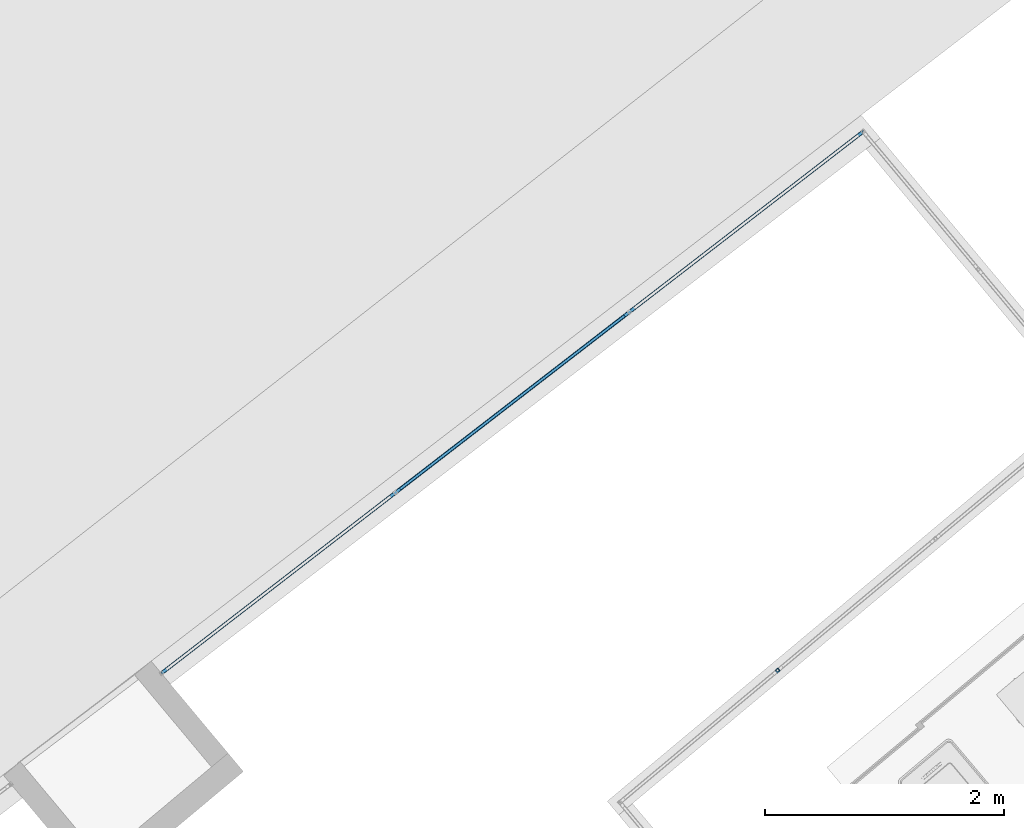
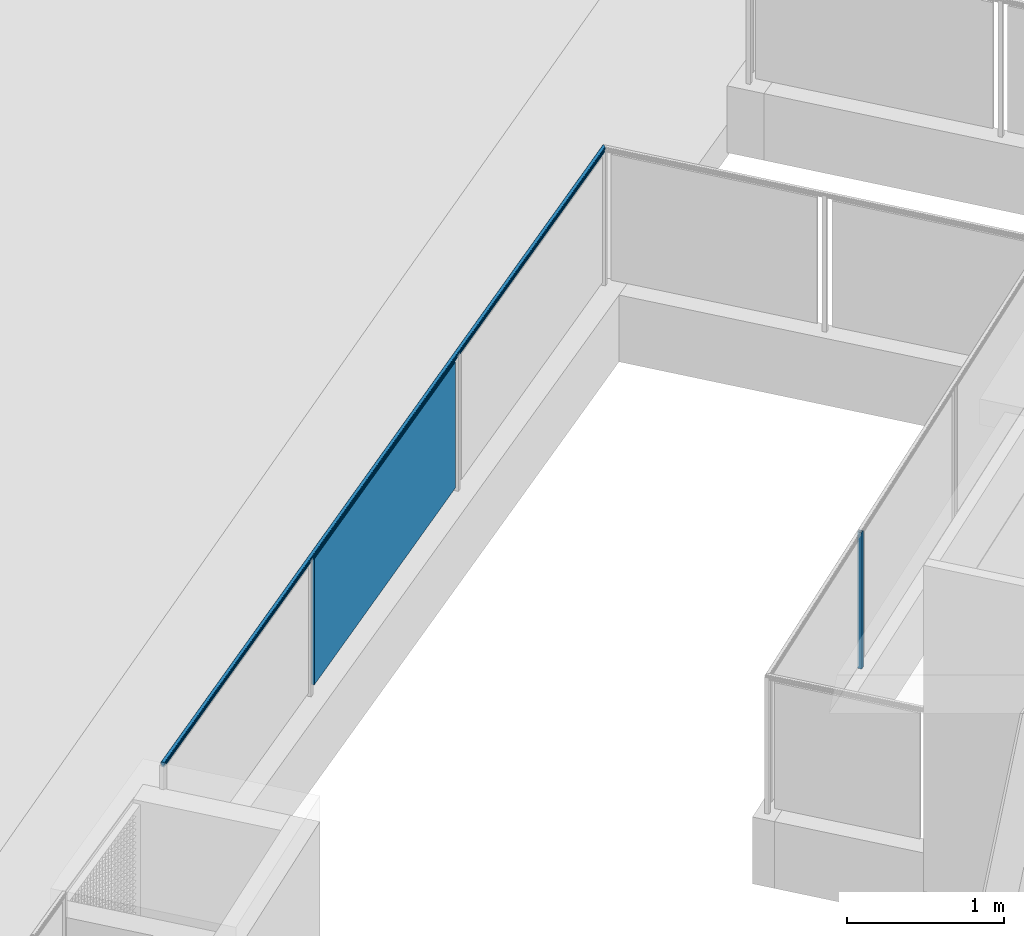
# One storey, part 30 of 75: 3 building element parts, 1 element without a shape of its own.
"""IFC4 building model written with IfcOpenShell, lengths in metres."""

from ifc_helpers import new_model, entity, si_unit, converted_unit, derived_unit, direction, frame, origin_with_axes, place, context, subcontext, project, spatial, polygons, material, type_object, element, aggregate, save


model = new_model("IFC4")

# Units and contexts
model_context = context("Model", 3, precision=1e-05, world=origin_with_axes(), true_north=direction((0.0, 1.0)))
body_context = subcontext(model_context, "Body", "Model", "MODEL_VIEW")
ifc_project = project(units=[si_unit("LENGTHUNIT", "METRE"), si_unit("AREAUNIT", "SQUARE_METRE"), si_unit("VOLUMEUNIT", "CUBIC_METRE"), converted_unit("PLANEANGLEUNIT", "DEGREE", entity("IfcPlaneAngleMeasure", 0.0174532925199), si_unit("PLANEANGLEUNIT", "RADIAN"), dimensions=[0, 0, 0, 0, 0, 0, 0]), converted_unit("TIMEUNIT", "Year", entity("IfcTimeMeasure", 31556926.0), si_unit("TIMEUNIT", "SECOND"), dimensions=[0, 0, 1, 0, 0, 0, 0]), si_unit("MASSUNIT", "GRAM", prefix="KILO"), si_unit("THERMODYNAMICTEMPERATUREUNIT", "DEGREE_CELSIUS"), si_unit("LUMINOUSINTENSITYUNIT", "LUMEN"), si_unit("ENERGYUNIT", "JOULE", prefix="MEGA"), derived_unit("THERMALCONDUCTANCEUNIT", [(si_unit("POWERUNIT", "WATT"), 1), (si_unit("LENGTHUNIT", "METRE"), -1), (si_unit("THERMODYNAMICTEMPERATUREUNIT", "KELVIN"), -1)]), derived_unit("SPECIFICHEATCAPACITYUNIT", [(si_unit("ENERGYUNIT", "JOULE"), 1), (si_unit("MASSUNIT", "GRAM", prefix="KILO"), -1), (si_unit("THERMODYNAMICTEMPERATUREUNIT", "KELVIN"), -1)]), derived_unit("MASSDENSITYUNIT", [(si_unit("MASSUNIT", "GRAM", prefix="KILO"), 1), (si_unit("VOLUMEUNIT", "CUBIC_METRE"), -1)])], contexts=[model_context])

# Site, building, storey
site_placement = place(None, frame((-0.00153261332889, -0.00661245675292, 0.0), z_axis=(0.0, 0.0, 1.0), x_axis=(1.0, 0.0, 0.0)))
site = spatial("IfcSite", under=ifc_project, at=site_placement, Name="Gelände", CompositionType="ELEMENT")
building_placement = place(site_placement, origin_with_axes())
building = spatial("IfcBuilding", under=site, at=building_placement, Name="Gebäude", CompositionType="ELEMENT")
storey_placement = place(building_placement, frame((0.0, 0.0, -0.22), z_axis=(0.0, 0.0, 1.0), x_axis=(1.0, 0.0, 0.0)))
storey = spatial("IfcBuildingStorey", under=building, at=storey_placement, Name="EG", CompositionType="ELEMENT", Elevation=-0.22)

# Railing, building element parts
railing_type = type_object("IfcRailingType", Name="Geländerart", PredefinedType="NOTDEFINED")
railing_placement = place(storey_placement, frame((-6.36726458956, 22.4448248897, 0.523948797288), z_axis=(0.0, 0.0, 1.0), x_axis=(1.0, 0.0, 0.0)))
railing = element("IfcRailing", 1, at=railing_placement, inside=storey, type_object=railing_type, Name="Geländer - 001", PredefinedType="NOTDEFINED")
ifc_material_1 = material(Name="Aluminium")
building_element_part_1_placement = place(railing_placement, origin_with_axes())
building_element_part_1 = element("IfcBuildingElementPart", 2, at=building_element_part_1_placement, material=ifc_material_1, Name="Aluminium", PredefinedType="NOTDEFINED", context=body_context, shape_type="Tessellation", body=[
    polygons([(0.700872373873, 1.98228677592, 0.0), (0.68164116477, 2.00531199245, 0.0), (0.68164116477, 2.00531199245, 1.06), (0.700872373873, 1.98228677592, 1.06), (0.677847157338, 1.96305556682, 0.0), (0.658615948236, 1.98608078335, 0.0), (0.693829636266, 1.98291911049, 0.0), (0.681008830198, 1.99826925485, 0.0), (0.665658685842, 1.98544844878, 0.0), (0.67847949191, 1.97009830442, 0.0), (0.658615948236, 1.98608078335, 1.06), (0.677847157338, 1.96305556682, 1.06), (0.693829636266, 1.98291911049, 1.06), (0.67847949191, 1.97009830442, 1.06), (0.665658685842, 1.98544844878, 1.06), (0.681008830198, 1.99826925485, 1.06)], [[[1, 2, 3, 4]], [[1, 5, 6, 2], [7, 8, 9, 10]], [[2, 6, 11, 3]], [[4, 3, 11, 12], [13, 14, 15, 16]], [[5, 1, 4, 12]], [[6, 5, 12, 11]], [[8, 7, 13, 16]], [[9, 8, 16, 15]], [[10, 9, 15, 14]], [[7, 10, 14, 13]]], closed=True),
])
building_element_part_2_placement = place(railing_placement, origin_with_axes())
building_element_part_2 = element("IfcBuildingElementPart", 3, at=building_element_part_2_placement, material=ifc_material_1, Name="Aluminium", PredefinedType="NOTDEFINED", context=body_context, shape_type="Tessellation", body=[
    polygons([(1.39602010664, 6.50418748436, 1.07636363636), (1.39605547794, 6.50451182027, 1.07634109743), (-4.47650433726, 1.97058422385, 1.07634109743), (-4.47636065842, 1.97039812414, 1.07636363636), (1.39602010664, 6.50418748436, 1.07818181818), (1.39601081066, 6.50410224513, 1.07820551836), (1.39551474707, 6.49955360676, 1.0792391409), (1.39501150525, 6.49493914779, 1.07983921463), (1.39450491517, 6.49029398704, 1.08000117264), (1.39449531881, 6.49020599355, 1.08), (1.39448572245, 6.49011800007, 1.08000117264), (1.39397913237, 6.48547283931, 1.07983921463), (1.39347589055, 6.48085838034, 1.0792391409), (1.39297982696, 6.47630974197, 1.07820551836), (1.39297053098, 6.47622450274, 1.07818181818), (1.39297053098, 6.47622450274, 1.07636363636), (1.39293515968, 6.47590016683, 1.07634109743), (1.39280417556, 6.47469911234, 1.0761115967), (1.39267919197, 6.47355307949, 1.07565956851), (1.39256400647, 6.4724968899, 1.07499874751), (1.39246211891, 6.47156263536, 1.0741492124), (1.3923766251, 6.47077870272, 1.07313677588), (1.39231012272, 6.47016891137, 1.07199220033), (1.39226463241, 6.46975178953, 1.07075026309), (1.39224153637, 6.46954001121, 1.06944869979), (1.39224153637, 6.46954001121, 1.06812705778), (1.39226463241, 6.46975178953, 1.06682549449), (1.39231012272, 6.47016891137, 1.06558355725), (1.3923766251, 6.47077870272, 1.06443898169), (1.39246211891, 6.47156263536, 1.06342654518), (1.39256400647, 6.4724968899, 1.06257701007), (1.39267919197, 6.47355307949, 1.06191618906), (1.39280417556, 6.47469911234, 1.06146416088), (1.39293515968, 6.47590016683, 1.06123466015), (1.39297053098, 6.47622450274, 1.06121212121), (1.39297053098, 6.47622450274, 1.05818181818), (1.39299444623, 6.47644379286, 1.05810011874), (1.3931058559, 6.47746536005, 1.05758389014), (1.39320655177, 6.47838868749, 1.05688326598), (1.39329347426, 6.47918572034, 1.05601953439), (1.39336398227, 6.47983224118, 1.05501893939), (1.39341593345, 6.48030860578, 1.05391188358), (1.39344774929, 6.48060034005, 1.05273200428), (1.39345846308, 6.4806985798, 1.05151515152), (1.39344774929, 6.48060034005, 1.05029829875), (1.39341593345, 6.48030860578, 1.04911841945), (1.39336398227, 6.47983224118, 1.04801136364), (1.39329347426, 6.47918572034, 1.04701076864), (1.39320655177, 6.47838868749, 1.04614703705), (1.3931058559, 6.47746536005, 1.04544641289), (1.39299444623, 6.47644379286, 1.04493018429), (1.39297053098, 6.47622450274, 1.04484848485), (1.39297053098, 6.47622450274, 1.04), (1.39602010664, 6.50418748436, 1.04), (1.39602010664, 6.50418748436, 1.04484848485), (1.39599619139, 6.50396819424, 1.04493018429), (1.39588478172, 6.50294662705, 1.04544641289), (1.39578408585, 6.50202329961, 1.04614703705), (1.39569716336, 6.50122626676, 1.04701076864), (1.39562665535, 6.50057974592, 1.04801136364), (1.39557470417, 6.50010338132, 1.04911841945), (1.39554288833, 6.49981164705, 1.05029829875), (1.39553217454, 6.4997134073, 1.05151515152), (1.39554288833, 6.49981164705, 1.05273200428), (1.39557470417, 6.50010338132, 1.05391188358), (1.39562665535, 6.50057974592, 1.05501893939), (1.39569716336, 6.50122626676, 1.05601953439), (1.39578408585, 6.50202329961, 1.05688326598), (1.39588478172, 6.50294662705, 1.05758389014), (1.39599619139, 6.50396819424, 1.05810011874), (1.39602010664, 6.50418748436, 1.05818181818), (1.39602010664, 6.50418748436, 1.06121212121), (1.39605547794, 6.50451182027, 1.06123466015), (1.39618646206, 6.50571287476, 1.06146416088), (1.39631144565, 6.50685890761, 1.06191618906), (1.39642663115, 6.5079150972, 1.06257701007), (1.39652851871, 6.50884935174, 1.06342654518), (1.39661401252, 6.50963328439, 1.06443898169), (1.3966805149, 6.51024307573, 1.06558355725), (1.39672600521, 6.51066019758, 1.06682549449), (1.39674910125, 6.51087197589, 1.06812705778), (1.39674910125, 6.51087197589, 1.06944869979), (1.39672600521, 6.51066019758, 1.07075026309), (1.3966805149, 6.51024307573, 1.07199220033), (1.39661401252, 6.50963328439, 1.07313677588), (1.39652851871, 6.50884935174, 1.0741492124), (1.39642663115, 6.5079150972, 1.07499874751), (1.39631144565, 6.50685890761, 1.07565956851), (1.39618646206, 6.50571287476, 1.0761115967), (-4.47703639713, 1.97127337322, 1.0761115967), (-4.47754408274, 1.9719309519, 1.07565956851), (-4.47801196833, 1.97253697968, 1.07499874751), (-4.47842583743, 1.97307304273, 1.0741492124), (-4.47877311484, 1.97352285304, 1.07313677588), (-4.47904324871, 1.97387274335, 1.07199220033), (-4.47922803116, 1.97411208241, 1.07075026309), (-4.47932184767, 1.97423359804, 1.06944869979), (-4.47932184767, 1.97423359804, 1.06812705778), (-4.47922803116, 1.97411208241, 1.06682549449), (-4.47904324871, 1.97387274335, 1.06558355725), (-4.47877311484, 1.97352285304, 1.06443898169), (-4.47842583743, 1.97307304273, 1.06342654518), (-4.47801196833, 1.97253697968, 1.06257701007), (-4.47754408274, 1.9719309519, 1.06191618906), (-4.47703639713, 1.97127337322, 1.06146416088), (-4.47650433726, 1.97058422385, 1.06123466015), (-4.47636065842, 1.97039812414, 1.06121212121), (-4.47636065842, 1.97039812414, 1.05818181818), (-4.47626351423, 1.97027229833, 1.05810011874), (-4.47581096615, 1.96968613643, 1.05758389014), (-4.47540193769, 1.96915634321, 1.05688326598), (-4.47504885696, 1.96869901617, 1.05601953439), (-4.47476245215, 1.96832805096, 1.05501893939), (-4.47455142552, 1.96805471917, 1.05391188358), (-4.474422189, 1.96788732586, 1.05273200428), (-4.47437866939, 1.96783095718, 1.05151515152), (-4.474422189, 1.96788732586, 1.05029829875), (-4.47455142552, 1.96805471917, 1.04911841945), (-4.47476245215, 1.96832805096, 1.04801136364), (-4.47504885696, 1.96869901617, 1.04701076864), (-4.47540193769, 1.96915634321, 1.04614703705), (-4.47581096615, 1.96968613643, 1.04544641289), (-4.47626351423, 1.97027229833, 1.04493018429), (-4.47636065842, 1.97039812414, 1.04484848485), (-4.47636065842, 1.97039812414, 1.04), (-4.46397322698, 1.95435333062, 1.04), (-4.46397322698, 1.95435333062, 1.04484848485), (-4.46407037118, 1.95447915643, 1.04493018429), (-4.46452291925, 1.95506531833, 1.04544641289), (-4.46493194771, 1.95559511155, 1.04614703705), (-4.46528502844, 1.95605243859, 1.04701076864), (-4.46557143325, 1.9564234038, 1.04801136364), (-4.46578245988, 1.95669673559, 1.04911841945), (-4.4659116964, 1.9568641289, 1.05029829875), (-4.46595521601, 1.95692049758, 1.05151515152), (-4.4659116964, 1.9568641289, 1.05273200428), (-4.46578245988, 1.95669673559, 1.05391188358), (-4.46557143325, 1.9564234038, 1.05501893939), (-4.46528502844, 1.95605243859, 1.05601953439), (-4.46493194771, 1.95559511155, 1.05688326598), (-4.46452291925, 1.95506531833, 1.05758389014), (-4.46407037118, 1.95447915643, 1.05810011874), (-4.46397322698, 1.95435333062, 1.05818181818), (-4.46397322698, 1.95435333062, 1.06121212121), (-4.46382954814, 1.95416723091, 1.06123466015), (-4.46329748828, 1.95347808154, 1.06146416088), (-4.46278980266, 1.95282050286, 1.06191618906), (-4.46232191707, 1.95221447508, 1.06257701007), (-4.46190804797, 1.95167841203, 1.06342654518), (-4.46156077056, 1.95122860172, 1.06443898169), (-4.46129063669, 1.95087871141, 1.06558355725), (-4.46110585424, 1.95063937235, 1.06682549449), (-4.46101203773, 1.95051785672, 1.06812705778), (-4.46101203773, 1.95051785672, 1.06944869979), (-4.46110585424, 1.95063937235, 1.07075026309), (-4.46129063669, 1.95087871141, 1.07199220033), (-4.46156077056, 1.95122860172, 1.07313677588), (-4.46190804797, 1.95167841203, 1.0741492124), (-4.46232191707, 1.95221447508, 1.07499874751), (-4.46278980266, 1.95282050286, 1.07565956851), (-4.46329748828, 1.95347808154, 1.0761115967), (-4.46382954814, 1.95416723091, 1.07634109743), (-4.46397322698, 1.95435333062, 1.07636363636), (-4.46397322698, 1.95435333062, 1.07818181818), (-4.46401098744, 1.95440223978, 1.07820551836), (-4.46602600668, 1.95701218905, 1.0792391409), (-4.46807018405, 1.95965990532, 1.07983921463), (-4.47012796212, 1.96232523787, 1.08000117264), (-4.4701669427, 1.96237572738, 1.08), (-4.47020592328, 1.96242621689, 1.08000117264), (-4.47226370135, 1.96509154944, 1.07983921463), (-4.47430787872, 1.96773926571, 1.0792391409), (-4.47632289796, 1.97034921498, 1.07820551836), (-4.47636065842, 1.97039812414, 1.07818181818)], [[[1, 2, 3, 4]], [[1, 5, 6, 7, 8, 9, 10, 11, 12, 13, 14, 15, 16, 17, 18, 19, 20, 21, 22, 23, 24, 25, 26, 27, 28, 29, 30, 31, 32, 33, 34, 35, 36, 37, 38, 39, 40, 41, 42, 43, 44, 45, 46, 47, 48, 49, 50, 51, 52, 53, 54, 55, 56, 57, 58, 59, 60, 61, 62, 63, 64, 65, 66, 67, 68, 69, 70, 71, 72, 73, 74, 75, 76, 77, 78, 79, 80, 81, 82, 83, 84, 85, 86, 87, 88, 89, 2]], [[2, 89, 90, 3]], [[4, 3, 90, 91, 92, 93, 94, 95, 96, 97, 98, 99, 100, 101, 102, 103, 104, 105, 106, 107, 108, 109, 110, 111, 112, 113, 114, 115, 116, 117, 118, 119, 120, 121, 122, 123, 124, 125, 126, 127, 128, 129, 130, 131, 132, 133, 134, 135, 136, 137, 138, 139, 140, 141, 142, 143, 144, 145, 146, 147, 148, 149, 150, 151, 152, 153, 154, 155, 156, 157, 158, 159, 160, 161, 162, 163, 164, 165, 166, 167, 168, 169, 170, 171, 172, 173, 174]], [[5, 1, 4, 174]], [[6, 5, 174, 173]], [[7, 6, 173, 172]], [[8, 7, 172, 171]], [[9, 8, 171, 170]], [[10, 9, 170, 169]], [[11, 10, 169, 168]], [[12, 11, 168, 167]], [[13, 12, 167, 166]], [[14, 13, 166, 165]], [[15, 14, 165, 164]], [[16, 15, 164, 163]], [[17, 16, 163, 162]], [[18, 17, 162, 161]], [[19, 18, 161, 160]], [[20, 19, 160, 159]], [[21, 20, 159, 158]], [[22, 21, 158, 157]], [[23, 22, 157, 156]], [[24, 23, 156, 155]], [[25, 24, 155, 154]], [[26, 25, 154, 153]], [[27, 26, 153, 152]], [[28, 27, 152, 151]], [[29, 28, 151, 150]], [[30, 29, 150, 149]], [[31, 30, 149, 148]], [[32, 31, 148, 147]], [[33, 32, 147, 146]], [[34, 33, 146, 145]], [[35, 34, 145, 144]], [[36, 35, 144, 143]], [[37, 36, 143, 142]], [[38, 37, 142, 141]], [[39, 38, 141, 140]], [[40, 39, 140, 139]], [[41, 40, 139, 138]], [[42, 41, 138, 137]], [[43, 42, 137, 136]], [[44, 43, 136, 135]], [[45, 44, 135, 134]], [[46, 45, 134, 133]], [[47, 46, 133, 132]], [[48, 47, 132, 131]], [[49, 48, 131, 130]], [[50, 49, 130, 129]], [[51, 50, 129, 128]], [[52, 51, 128, 127]], [[53, 52, 127, 126]], [[54, 53, 126, 125]], [[55, 54, 125, 124]], [[56, 55, 124, 123]], [[57, 56, 123, 122]], [[58, 57, 122, 121]], [[59, 58, 121, 120]], [[60, 59, 120, 119]], [[61, 60, 119, 118]], [[62, 61, 118, 117]], [[63, 62, 117, 116]], [[64, 63, 116, 115]], [[65, 64, 115, 114]], [[66, 65, 114, 113]], [[67, 66, 113, 112]], [[68, 67, 112, 111]], [[69, 68, 111, 110]], [[70, 69, 110, 109]], [[71, 70, 109, 108]], [[72, 71, 108, 107]], [[73, 72, 107, 106]], [[74, 73, 106, 105]], [[75, 74, 105, 104]], [[76, 75, 104, 103]], [[77, 76, 103, 102]], [[78, 77, 102, 101]], [[79, 78, 101, 100]], [[80, 79, 100, 99]], [[81, 80, 99, 98]], [[82, 81, 98, 97]], [[83, 82, 97, 96]], [[84, 83, 96, 95]], [[85, 84, 95, 94]], [[86, 85, 94, 93]], [[87, 86, 93, 92]], [[88, 87, 92, 91]], [[89, 88, 91, 90]]], closed=True),
])
ifc_material_2 = material(Name="Zaun")
building_element_part_3_placement = place(railing_placement, origin_with_axes())
building_element_part_3 = element("IfcBuildingElementPart", 4, at=building_element_part_3_placement, material=ifc_material_2, Name="Zaun", PredefinedType="NOTDEFINED", context=body_context, shape_type="Tessellation", body=[
    polygons([(-2.46959123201, 3.49429271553, 0.05), (-0.593858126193, 4.94245814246, 0.05), (-0.593858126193, 4.94245814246, 1.03), (-2.46959123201, 3.49429271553, 1.03), (-0.606080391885, 4.9582890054, 0.05), (-2.4818134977, 3.51012357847, 0.05), (-0.606080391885, 4.9582890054, 1.03), (-2.4818134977, 3.51012357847, 1.03)], [[[1, 2, 3, 4]], [[5, 2, 1, 6]], [[7, 3, 2, 5]], [[4, 3, 7, 8]], [[1, 4, 8, 6]], [[7, 5, 6, 8]]], closed=True),
])
aggregate(railing, [building_element_part_1, building_element_part_2, building_element_part_3])

save(model, "model.ifc")
